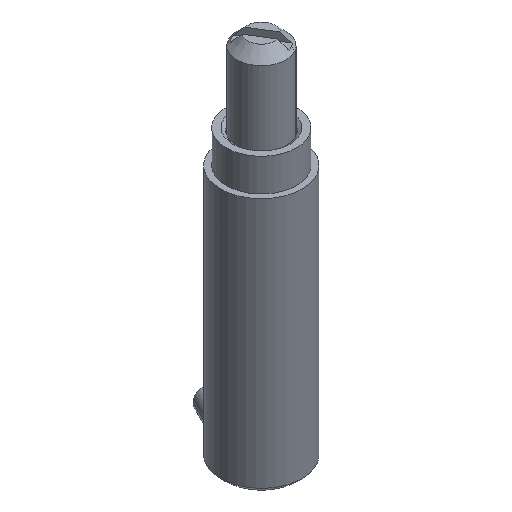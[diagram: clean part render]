
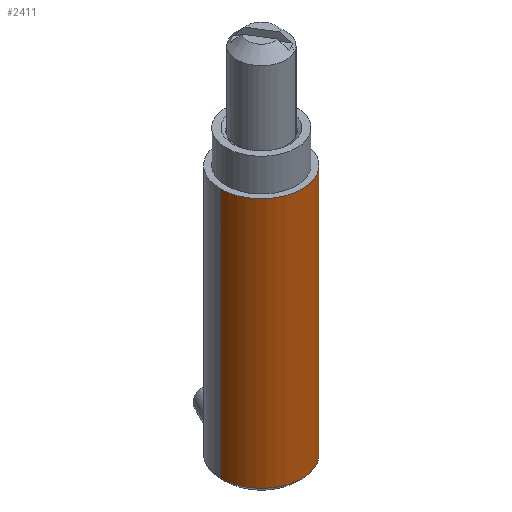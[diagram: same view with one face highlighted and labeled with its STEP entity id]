
A CAD part, isometric view. The second image highlights one B-rep face of the part: STEP entity #2411.
In plain terms, the highlighted cylindrical face has radius 7.5 mm (diameter 15 mm), a partial arc.
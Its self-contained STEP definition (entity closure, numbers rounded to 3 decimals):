
#15 = CARTESIAN_POINT ( 'NONE',  ( -7.5, 0., -6. ) ) ;
#47 = CARTESIAN_POINT ( 'NONE',  ( 7.5, 0., -6. ) ) ;
#103 = DIRECTION ( 'NONE',  ( 0., 0., 1. ) ) ;
#104 = CARTESIAN_POINT ( 'NONE',  ( -7.5, 0., 0. ) ) ;
#105 = VECTOR ( 'NONE', #103, 1000. ) ;
#122 = LINE ( 'NONE', #104, #105 ) ;
#218 = CARTESIAN_POINT ( 'NONE',  ( 7.5, 0., -52. ) ) ;
#234 = CARTESIAN_POINT ( 'NONE',  ( -7.5, 0., -52. ) ) ;
#248 = AXIS2_PLACEMENT_3D ( 'NONE', #253, #254, #304 ) ;
#251 = CARTESIAN_POINT ( 'NONE',  ( 0., 0., 0. ) ) ;
#252 = FACE_OUTER_BOUND ( 'NONE', #2403, .T. ) ;
#253 = CARTESIAN_POINT ( 'NONE',  ( 0., 0., -52. ) ) ;
#254 = DIRECTION ( 'NONE',  ( 0., 0., 1. ) ) ;
#270 = DIRECTION ( 'NONE',  ( 0., 0., 1. ) ) ;
#271 = VECTOR ( 'NONE', #270, 1000. ) ;
#288 = DIRECTION ( 'NONE',  ( 1., 0., 0. ) ) ;
#289 = DIRECTION ( 'NONE',  ( 0., 0., 1. ) ) ;
#294 = CARTESIAN_POINT ( 'NONE',  ( 7.5, 0., 0. ) ) ;
#295 = LINE ( 'NONE', #294, #271 ) ;
#296 = CYLINDRICAL_SURFACE ( 'NONE', #314, 7.5 ) ;
#304 = DIRECTION ( 'NONE',  ( 1., 0., 0. ) ) ;
#305 = DIRECTION ( 'NONE',  ( 1., 0., 0. ) ) ;
#306 = DIRECTION ( 'NONE',  ( 0., 0., 1. ) ) ;
#307 = CARTESIAN_POINT ( 'NONE',  ( 0., 0., -6. ) ) ;
#308 = AXIS2_PLACEMENT_3D ( 'NONE', #307, #306, #305 ) ;
#311 = CIRCLE ( 'NONE', #248, 7.5 ) ;
#312 = CIRCLE ( 'NONE', #308, 7.5 ) ;
#314 = AXIS2_PLACEMENT_3D ( 'NONE', #251, #289, #288 ) ;
#2307 = VERTEX_POINT ( 'NONE', #47 ) ;
#2317 = VERTEX_POINT ( 'NONE', #15 ) ;
#2330 = EDGE_CURVE ( 'NONE', #2386, #2317, #122, .T. ) ;
#2385 = VERTEX_POINT ( 'NONE', #218 ) ;
#2386 = VERTEX_POINT ( 'NONE', #234 ) ;
#2395 = EDGE_CURVE ( 'NONE', #2317, #2307, #312, .T. ) ;
#2401 = EDGE_CURVE ( 'NONE', #2386, #2385, #311, .T. ) ;
#2403 = EDGE_LOOP ( 'NONE', ( #2414, #2412, #2415, #2409 ) ) ;
#2409 = ORIENTED_EDGE ( 'NONE', *, *, #2395, .F. ) ;
#2411 = ADVANCED_FACE ( 'NONE', ( #252 ), #296, .T. ) ;
#2412 = ORIENTED_EDGE ( 'NONE', *, *, #2401, .T. ) ;
#2414 = ORIENTED_EDGE ( 'NONE', *, *, #2330, .F. ) ;
#2415 = ORIENTED_EDGE ( 'NONE', *, *, #2423, .T. ) ;
#2423 = EDGE_CURVE ( 'NONE', #2385, #2307, #295, .T. ) ;
